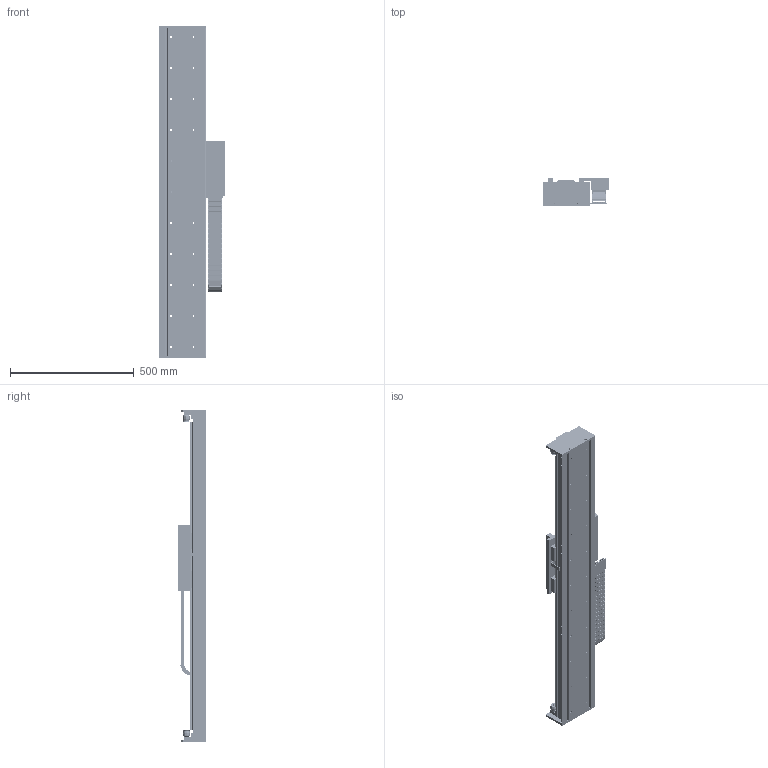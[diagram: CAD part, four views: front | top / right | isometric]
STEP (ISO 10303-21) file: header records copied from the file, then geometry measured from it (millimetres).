
FILE_DESCRIPTION (( 'STEP AP203' ), '1' );
FILE_NAME ('STF50200F-xC1B-Axx.STEP', '2007-10-29T13:52:20', ( 'Yaskawa' ), ( 'Yaskawa' ), 'SwSTEP 2.0', 'SolidWorks 2007', '' );
FILE_SCHEMA (( 'CONFIG_CONTROL_DESIGN' ));
Length unit declared in the file: millimetre
Products named in the file (55): STCM-R1; STCM-005-R1 Cable Assembly Cover; STF50200F; 07.50.038.0_35; 07.50.038.0_20; 07.50.038.0_27; 07.50.038.0_28; 07.50.038.0_22; 07.50.038.0_23; 07.50.038.0_26; 07.50.038.0_24; 07.50.038.0_25; 07.50.038.0_40; 07.50.038.0_29; 07.50.038.0_30; 07.50.038.0_33; 07.50.038.0_34; 07.50.038.0_36; 07.50.038.0_37; 07.50.038.0_38; 07.50.038.0_39; 07.50.038.0_41; 07.50.038.0_42; 07.50.038.0_45; 07.50.038.0_43; 07.50.038.0_44; 07.50.038.0_46; 07.50.038.0_47; 07.50.038.0_31; 07.50.038.0_32; 07.50.038.0_21; STCM-002-R2 Cable Assembly Front; STF50-005-R2 Cable Router; STF50200 Base_STF50BM-006; STF50-003 Renishaw Encoder Bracket; STF50-004 Flag; STF50-002A-R1 F50-200 Carriage Horn; STF50-006 Endplate; RGH22B; SSR20 Rail 820_1240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
Assembly tree (79 placements, depth 4):
  STF50200F-xC1B-Axx
    STF50200 Base_STF50BM-006
    SGLFM-50405AC  x3
    STF50-0200-R1 Carriage
      STF50-004 Flag
      SSR20W Block  x4
      RGH22B
      STF50-002A-R1 F50-200 Carriage Horn  x2
      STF50-003 Renishaw Encoder Bracket
      SGLFW-50A200AP
      STF50-005-R2 Cable Router
      STCM-R1
        STCM-006-R1 Upper E-chain Bracket
        STCM-004 Cable Assembly Side
        Serial Converter
        STCM-002-R2 Cable Assembly Front
        STCM-003 Cable Assembly Bottom
        STCM-001-R2 Cable Bracket
        STCM-005-R1 Cable Assembly Cover
      STF50-001A F50-200 Carriage
    STF50 Large End Stop  x4
      STF50-007 End Stop
      Large Bumper
    STF50-006 Endplate  x2
    STCM-007 Lower E-Chain Bracket
    SSR20 Rail 820_1240  x2
    STF50200F
      07.50.038.0_20
      07.50.038.0_32  x9
      07.50.038.0_44
      07.50.038.0_22
      07.50.038.0_42
      07.50.038.0_26
      07.50.038.0_31  x7
      07.50.038.0_21
      07.50.038.0_29
      07.50.038.0_34
      07.50.038.0_23
      07.50.038.0_46
      07.50.038.0_43
      07.50.038.0_33
      07.50.038.0_45
      07.50.038.0_47
      07.50.038.0_36
      07.50.038.0_28
      07.50.038.0_40
      07.50.038.0_35
      07.50.038.0_27
      07.50.038.0_25
      07.50.038.0_38
      07.50.038.0_41
      07.50.038.0_37
      07.50.038.0_24
      07.50.038.0_30
      07.50.038.0_39
Bounding box: 269.74 x 115 x 1339.05 mm (x, y, z)
Volume: 10429495.6 mm3; surface area: 2344203.5 mm2
Topology: 118 solids, 118 shells, 5594 faces, 14757 edges, 9456 vertices
Faces by surface type: plane 2845, cylinder 2333, cone 404, bspline 8, torus 4
Entity records: 124125 total; most frequent: DIRECTION 21020, CARTESIAN_POINT 20484, ORIENTED_EDGE 19504, EDGE_CURVE 9752, AXIS2_PLACEMENT_3D 7404, VERTEX_POINT 6390, VECTOR 6212, LINE 6212
